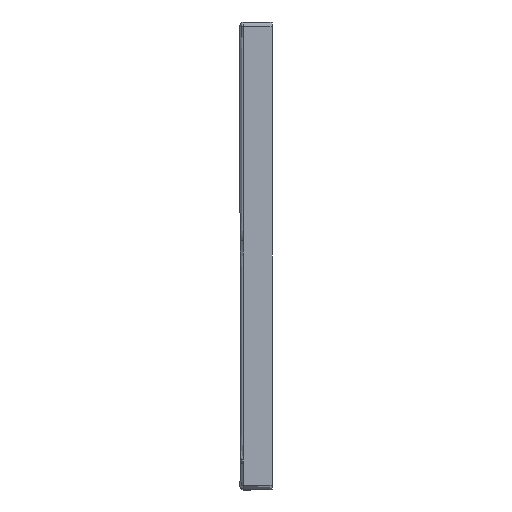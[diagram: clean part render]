
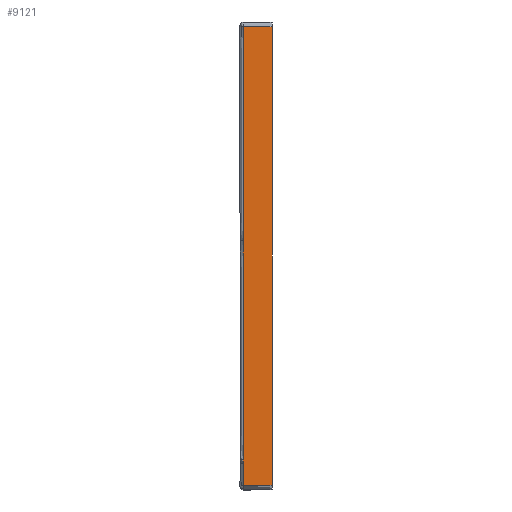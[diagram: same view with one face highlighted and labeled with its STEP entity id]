
A CAD part, left-side view. The second image highlights one B-rep face of the part: STEP entity #9121.
In plain terms, the highlighted planar face has unit normal (-1, 0, 0).
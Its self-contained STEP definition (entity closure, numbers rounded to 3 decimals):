
#1938=DIRECTION('',(0.,0.,-1.));
#1939=VECTOR('',#1938,5.012);
#1940=CARTESIAN_POINT('',(-450.,-5.194,45.));
#1941=LINE('',#1940,#1939);
#1954=CARTESIAN_POINT('',(-450.,-5.194,45.));
#1955=CARTESIAN_POINT('',(-450.,-5.194,
48.474));
#1956=CARTESIAN_POINT('',(-450.,-5.193,
55.786));
#1957=CARTESIAN_POINT('',(-450.,-5.193,
68.267));
#1958=CARTESIAN_POINT('',(-450.,-5.191,81.011));
#1959=CARTESIAN_POINT('',(-450.,-5.189,94.956));
#1960=CARTESIAN_POINT('',(-450.,-5.186,109.366));
#1961=CARTESIAN_POINT('',(-450.,-5.182,123.259));
#1962=CARTESIAN_POINT('',(-450.,-5.178,136.402));
#1963=CARTESIAN_POINT('',(-450.,-5.174,148.983));
#1964=CARTESIAN_POINT('',(-450.,-5.17,161.827));
#1965=CARTESIAN_POINT('',(-450.,-5.166,172.727));
#1966=CARTESIAN_POINT('',(-450.,-5.162,183.746));
#1967=CARTESIAN_POINT('',(-450.,-5.157,194.887));
#1968=CARTESIAN_POINT('',(-450.,-5.152,206.827));
#1969=CARTESIAN_POINT('',(-450.,-5.147,217.453));
#1970=CARTESIAN_POINT('',(-450.,-5.142,229.208));
#1971=CARTESIAN_POINT('',(-450.,-5.137,241.323));
#1972=CARTESIAN_POINT('',(-450.,-5.131,254.204));
#1973=CARTESIAN_POINT('',(-450.,-5.126,265.786));
#1974=CARTESIAN_POINT('',(-450.,-5.12,278.658));
#1975=CARTESIAN_POINT('',(-450.,-5.114,290.85));
#1976=CARTESIAN_POINT('',(-450.,-5.108,304.007));
#1977=CARTESIAN_POINT('',(-450.,-5.102,317.067));
#1978=CARTESIAN_POINT('',(-450.,-5.096,330.303));
#1979=CARTESIAN_POINT('',(-450.,-5.09,344.195));
#1980=CARTESIAN_POINT('',(-450.,-5.084,
357.779));
#1981=CARTESIAN_POINT('',(-450.,-5.08,
367.533));
#1982=CARTESIAN_POINT('',(-450.,-5.078,372.51));
#1984=CARTESIAN_POINT('',(-450.,-5.078,372.51));
#1985=CARTESIAN_POINT('',(-450.,-5.074,382.249));
#1986=CARTESIAN_POINT('',(-450.,-5.066,400.875));
#1987=CARTESIAN_POINT('',(-450.,-5.056,427.886));
#1988=CARTESIAN_POINT('',(-450.,-5.047,
453.431));
#1989=CARTESIAN_POINT('',(-450.,-5.038,
478.55));
#1990=CARTESIAN_POINT('',(-450.,-5.031,
503.884));
#1991=CARTESIAN_POINT('',(-450.,-5.024,
529.667));
#1992=CARTESIAN_POINT('',(-450.,-5.017,
555.688));
#1993=CARTESIAN_POINT('',(-450.,-5.012,
581.486));
#1994=CARTESIAN_POINT('',(-450.,-5.008,
606.39));
#1995=CARTESIAN_POINT('',(-450.,-5.004,
629.869));
#1996=CARTESIAN_POINT('',(-450.,-5.002,
651.77));
#1997=CARTESIAN_POINT('',(-450.,-5.001,
672.631));
#1998=CARTESIAN_POINT('',(-450.,-5.,
686.215));
#1999=CARTESIAN_POINT('',(-450.,-5.,
693.));
#2001=DIRECTION('',(0.,0.,-1.));
#2002=VECTOR('',#2001,686.);
#2003=CARTESIAN_POINT('',(-450.,-48.,693.));
#2004=LINE('',#2003,#2002);
#2005=DIRECTION('',(0.,1.,0.));
#2006=VECTOR('',#2005,42.967);
#2007=CARTESIAN_POINT('',(-450.,-48.,7.));
#2008=LINE('',#2007,#2006);
#2009=DIRECTION('',(0.,-0.005,1.));
#2010=VECTOR('',#2009,32.988);
#2011=CARTESIAN_POINT('',(-450.,-5.033,
7.));
#2012=LINE('',#2011,#2010);
#2753=DIRECTION('',(0.,1.,0.));
#2754=VECTOR('',#2753,43.);
#2755=CARTESIAN_POINT('',(-450.,-48.,693.));
#2756=LINE('',#2755,#2754);
#5976=CARTESIAN_POINT('',(-450.,-5.194,45.));
#5977=VERTEX_POINT('',#5976);
#5978=CARTESIAN_POINT('',(-450.,-5.194,
39.988));
#5979=VERTEX_POINT('',#5978);
#5980=VERTEX_POINT('',#1982);
#5982=VERTEX_POINT('',#1999);
#5983=CARTESIAN_POINT('',(-450.,-48.,693.));
#5984=VERTEX_POINT('',#5983);
#5985=CARTESIAN_POINT('',(-450.,-48.,7.));
#5986=VERTEX_POINT('',#5985);
#5987=CARTESIAN_POINT('',(-450.,-5.033,
7.));
#5988=VERTEX_POINT('',#5987);
#9102=CARTESIAN_POINT('',(-450.,0.,0.));
#9103=DIRECTION('',(-1.,0.,0.));
#9104=DIRECTION('',(0.,0.,1.));
#9105=AXIS2_PLACEMENT_3D('',#9102,#9103,#9104);
#9106=PLANE('',#9105);
#9107=ORIENTED_EDGE('',*,*,#9028,.F.);
#9108=ORIENTED_EDGE('',*,*,#9092,.T.);
#9110=ORIENTED_EDGE('',*,*,#9109,.T.);
#9112=ORIENTED_EDGE('',*,*,#9111,.F.);
#9114=ORIENTED_EDGE('',*,*,#9113,.T.);
#9116=ORIENTED_EDGE('',*,*,#9115,.T.);
#9118=ORIENTED_EDGE('',*,*,#9117,.T.);
#9119=EDGE_LOOP('',(#9107,#9108,#9110,#9112,#9114,#9116,#9118));
#9120=FACE_OUTER_BOUND('',#9119,.F.);
#9121=ADVANCED_FACE('',(#9120),#9106,.T.);
#1983=B_SPLINE_CURVE_WITH_KNOTS('',3,(#1954,#1955,#1956,#1957,#1958,#1959,#1960,
#1961,#1962,#1963,#1964,#1965,#1966,#1967,#1968,#1969,#1970,#1971,#1972,#1973,
#1974,#1975,#1976,#1977,#1978,#1979,#1980,#1981,#1982),.UNSPECIFIED.,.F.,.F.,(4,
1,1,1,1,1,1,1,1,1,1,1,1,1,1,1,1,1,1,1,1,1,1,1,1,1,4),(0.,0.038,
0.077,0.115,0.154,0.192,
0.231,0.269,0.308,0.346,
0.385,0.423,0.462,0.5,0.538,
0.577,0.615,0.654,0.692,
0.731,0.769,0.808,0.846,
0.885,0.923,0.962,1.),.UNSPECIFIED.);
#2000=B_SPLINE_CURVE_WITH_KNOTS('',3,(#1984,#1985,#1986,#1987,#1988,#1989,#1990,
#1991,#1992,#1993,#1994,#1995,#1996,#1997,#1998,#1999),.UNSPECIFIED.,.F.,.F.,(4,
1,1,1,1,1,1,1,1,1,1,1,1,4),(0.,0.091,0.174,
0.253,0.33,0.409,0.49,
0.572,0.653,0.731,0.805,
0.873,0.936,1.),.UNSPECIFIED.);
#9028=EDGE_CURVE('',#5977,#5979,#1941,.T.);
#9092=EDGE_CURVE('',#5977,#5980,#1983,.T.);
#9109=EDGE_CURVE('',#5980,#5982,#2000,.T.);
#9111=EDGE_CURVE('',#5984,#5982,#2756,.T.);
#9113=EDGE_CURVE('',#5984,#5986,#2004,.T.);
#9115=EDGE_CURVE('',#5986,#5988,#2008,.T.);
#9117=EDGE_CURVE('',#5988,#5979,#2012,.T.);
